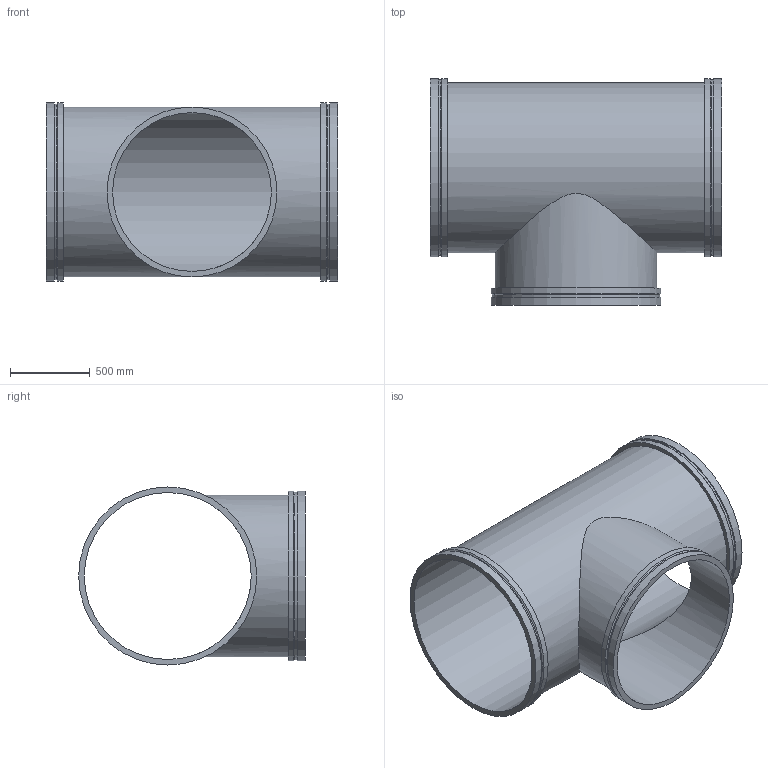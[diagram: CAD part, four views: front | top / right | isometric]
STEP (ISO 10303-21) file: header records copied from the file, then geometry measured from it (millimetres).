
FILE_DESCRIPTION(/* description */ ('VIC REDUCING TEE No W025 VR','CAx-IF Rec.Pracs.---Representation and Presentation of Product Manufacturing Information (PMI)---4.0---2014-10-13'),/* implementation_level */ '2;1');
FILE_NAME(/* name */ 'C:\Users\kkamble\AppData\Roaming\Autodesk\ApplicationPlugins\Back Up\Victaulic_Vic-Ring_Tee Reducing_No W25 VR (AGR)\Victaulic_Vic-Ring_Tee Reducing_No W25 VR (AGR)_42.0x40.0 (1050x1000).stp',/* time_stamp */ '2020-09-10T11:56:26+05:00',/* author */ ('mchristi'),/* organization */ ('Victaulic'),/* preprocessor_version */ 'ST-DEVELOPER v17.2',/* originating_system */ 'Autodesk Inventor 2019',/* authorisation */ '');
FILE_SCHEMA (('AP242_MANAGED_MODEL_BASED_3D_ENGINEERING_MIM_LF { 1 0 10303 442 1 1 4 }'));
Length unit declared in the file: inch
Products named in the file (1): W25 VR-42.0x40.0
Bounding box: 1828.8 x 1422.4 x 1117.6 mm (x, y, z)
Volume: 90348409.2 mm3; surface area: 14135939.7 mm2
Topology: 1 solids, 1 shells, 25 faces, 68 edges, 52 vertices
Faces by surface type: cylinder 13, plane 9, cone 3
Full cylindrical faces by diameter (mm): 996.95 x1, 1016 x1, 1047.75 x1, 1050.925 x1, 1066.8 x3, 1101.725 x2, 1117.6 x4
Entity records: 1315 total; most frequent: CARTESIAN_POINT 471, DIRECTION 190, ORIENTED_EDGE 136, AXIS2_PLACEMENT_3D 87, EDGE_CURVE 68, VERTEX_POINT 52, CIRCLE 48, EDGE_LOOP 36
